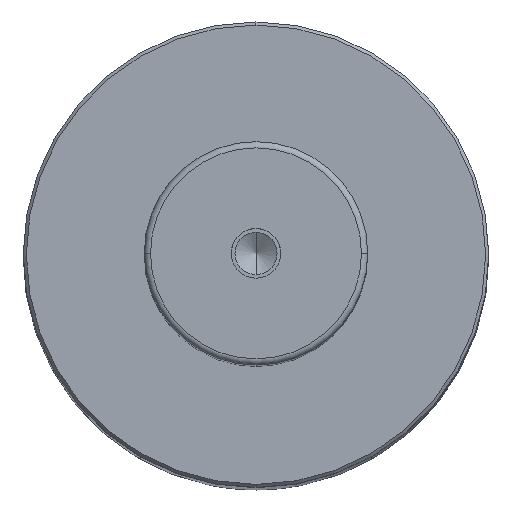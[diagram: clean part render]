
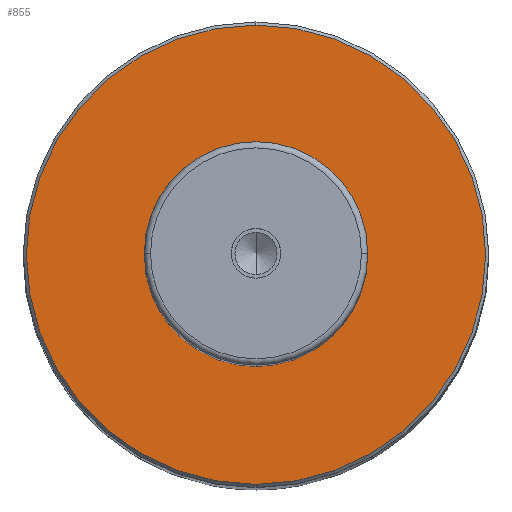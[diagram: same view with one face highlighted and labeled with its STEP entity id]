
A CAD part, top view. The second image highlights one B-rep face of the part: STEP entity #855.
In plain terms, the highlighted planar face has unit normal (0, 0, 1).
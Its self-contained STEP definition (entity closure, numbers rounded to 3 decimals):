
#479 = EDGE_CURVE( '', #747, #821, #1153, .T. );
#559 = EDGE_CURVE( '', #949, #943, #1248, .T. );
#577 = EDGE_CURVE( '', #943, #949, #1269, .T. );
#747 = VERTEX_POINT( '', #1453 );
#821 = VERTEX_POINT( '', #1538 );
#855 = ADVANCED_FACE( '', ( #1578, #1579 ), #1580, .T. );
#917 = EDGE_CURVE( '', #821, #747, #1647, .T. );
#943 = VERTEX_POINT( '', #1675 );
#949 = VERTEX_POINT( '', #1681 );
#1153 = CIRCLE( '', #1982, 37. );
#1248 = CIRCLE( '', #2105, 18. );
#1269 = CIRCLE( '', #2136, 18. );
#1453 = CARTESIAN_POINT( '', ( 0., -37., 232. ) );
#1538 = CARTESIAN_POINT( '', ( 0., 37., 232. ) );
#1578 = FACE_BOUND( '', #2604, .T. );
#1579 = FACE_OUTER_BOUND( '', #2605, .T. );
#1580 = PLANE( '', #2606 );
#1647 = CIRCLE( '', #2702, 37. );
#1675 = CARTESIAN_POINT( '', ( 0., 18., 232. ) );
#1681 = CARTESIAN_POINT( '', ( 0., -18., 232. ) );
#1982 = AXIS2_PLACEMENT_3D( '', #2971, #2972, #2973 );
#2105 = AXIS2_PLACEMENT_3D( '', #3110, #3111, #3112 );
#2136 = AXIS2_PLACEMENT_3D( '', #3145, #3146, #3147 );
#2604 = EDGE_LOOP( '', ( #3516, #3517 ) );
#2605 = EDGE_LOOP( '', ( #3518, #3519 ) );
#2606 = AXIS2_PLACEMENT_3D( '', #3520, #3521, #3522 );
#2702 = AXIS2_PLACEMENT_3D( '', #3596, #3597, #3598 );
#2971 = CARTESIAN_POINT( '', ( 0., 0., 232. ) );
#2972 = DIRECTION( '', ( 0., 0., 1. ) );
#2973 = DIRECTION( '', ( 0., 1., 0. ) );
#3110 = CARTESIAN_POINT( '', ( 0., 0., 232. ) );
#3111 = DIRECTION( '', ( 0., 0., 1. ) );
#3112 = DIRECTION( '', ( 0., 1., 0. ) );
#3145 = CARTESIAN_POINT( '', ( 0., 0., 232. ) );
#3146 = DIRECTION( '', ( 0., 0., 1. ) );
#3147 = DIRECTION( '', ( 0., 1., 0. ) );
#3516 = ORIENTED_EDGE( '', *, *, #577, .F. );
#3517 = ORIENTED_EDGE( '', *, *, #559, .F. );
#3518 = ORIENTED_EDGE( '', *, *, #917, .T. );
#3519 = ORIENTED_EDGE( '', *, *, #479, .T. );
#3520 = CARTESIAN_POINT( '', ( 0., 27.5, 232. ) );
#3521 = DIRECTION( '', ( 0., 0., 1. ) );
#3522 = DIRECTION( '', ( 0., 1., 0. ) );
#3596 = CARTESIAN_POINT( '', ( 0., 0., 232. ) );
#3597 = DIRECTION( '', ( 0., 0., 1. ) );
#3598 = DIRECTION( '', ( 0., 1., 0. ) );
